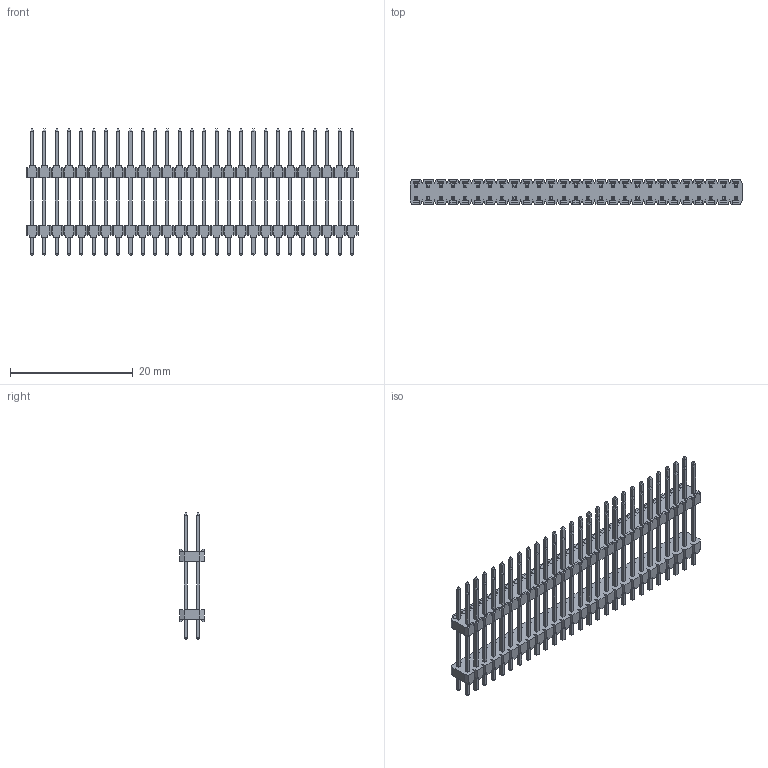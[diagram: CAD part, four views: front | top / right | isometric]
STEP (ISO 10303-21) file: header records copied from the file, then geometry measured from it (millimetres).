
FILE_DESCRIPTION(/* description */ (''),/* implementation_level */ '2;1');
FILE_NAME(/* name */ '951454-8062206-AR',/* time_stamp */ '2007-03-14T11:06:16+01:00',/* author */ (''),/* organization */ (''),/* preprocessor_version */ 'ST-DEVELOPER v9',/* originating_system */ 'UGS - NX 4.0',/* authorisation */ '');
FILE_SCHEMA (('AUTOMOTIVE_DESIGN { 1 0 10303 214 1 1 1 1 }'));
Length unit declared in the file: millimetre
Products named in the file (1): 951454-8062206-AR
Bounding box: 54 x 4 x 20.5 mm (x, y, z)
Volume: 909.5 mm3; surface area: 3271.5 mm2
Topology: 1 solids, 1 shells, 1952 faces, 5088 edges, 3248 vertices
Faces by surface type: plane 1736, cylinder 216
Entity records: 58408 total; most frequent: CARTESIAN_POINT 10289, ORIENTED_EDGE 10176, DIRECTION 9210, EDGE_CURVE 5088, LINE 4872, VECTOR 4872, VERTEX_POINT 3248, AXIS2_PLACEMENT_3D 2169
